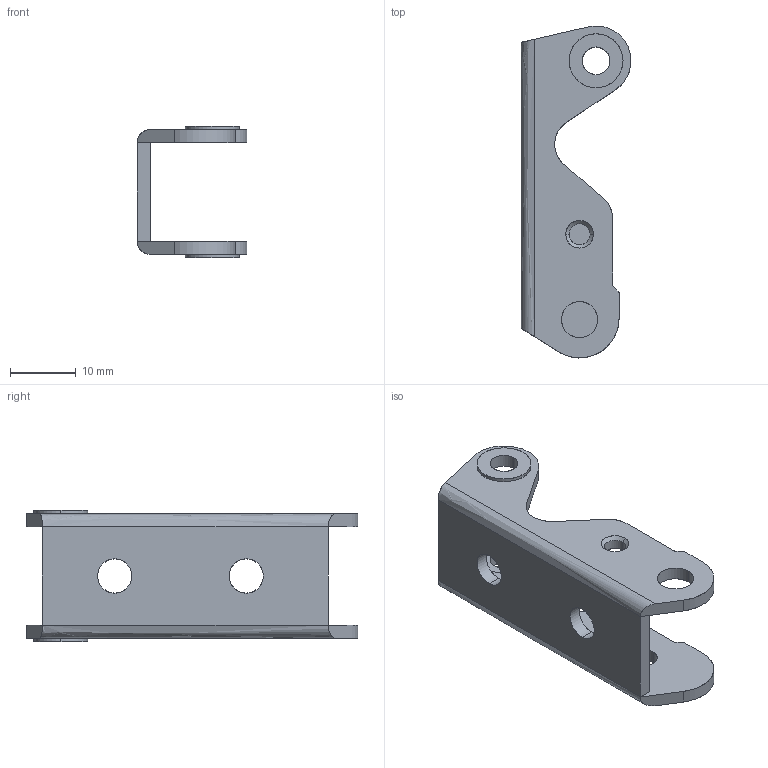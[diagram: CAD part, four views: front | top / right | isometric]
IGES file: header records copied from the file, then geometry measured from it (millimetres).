
Start section: SolidWorks IGES file using analytic representation for surfaces
Global section: file name: C:\Users\cbrechard\Desktop\GO 2032\29.020.10.IGS; native system: SolidWorks 2008; preprocessor: SolidWorks 2008; author: cbrechard; date: 130424.091344; units: millimetre
Bounding box: 16.69 x 50.49 x 20 mm (x, y, z)
Surface area: 4053.5 mm2 (no closed solid volume)
Topology: 0 solids, 0 shells, 66 faces, 1210 edges, 1210 vertices
Faces by surface type: revolution 40, bspline 26
